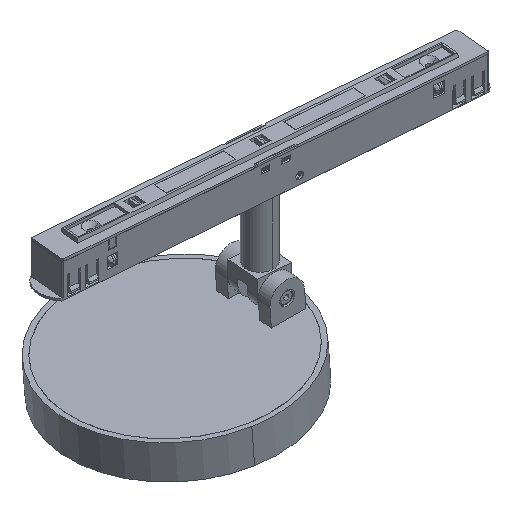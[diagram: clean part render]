
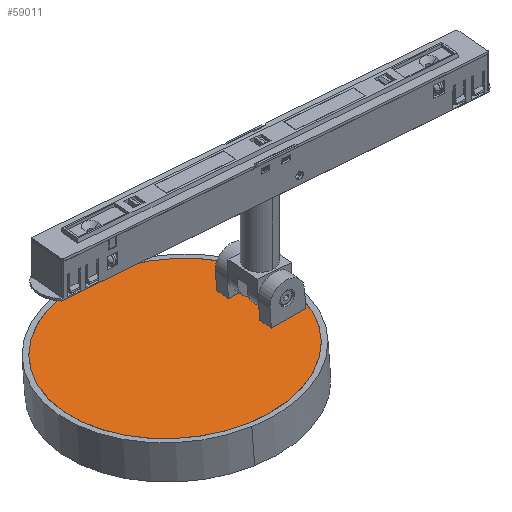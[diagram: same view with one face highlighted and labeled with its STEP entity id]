
A CAD part, isometric view. The second image highlights one B-rep face of the part: STEP entity #59011.
In plain terms, the highlighted planar face has unit normal (-0.071, 0.006, 0.997) as drawn and (0, -1, 0) by its records, which use the part's own axes.
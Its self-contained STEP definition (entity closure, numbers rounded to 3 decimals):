
#132 = AXIS2_PLACEMENT_3D ( 'NONE', #57697, #7623, #29894 ) ;
#854 = DIRECTION ( 'NONE',  ( 0., 0., 1. ) ) ;
#1792 = DIRECTION ( 'NONE',  ( 0., -1., 0. ) ) ;
#2063 = EDGE_LOOP ( 'NONE', ( #70917, #19471 ) ) ;
#2390 = CARTESIAN_POINT ( 'NONE',  ( -37.5, 0., 0. ) ) ;
#3287 = AXIS2_PLACEMENT_3D ( 'NONE', #70518, #20429, #42751 ) ;
#3795 = AXIS2_PLACEMENT_3D ( 'NONE', #28588, #50893, #854 ) ;
#4986 = DIRECTION ( 'NONE',  ( 0., -1., 0. ) ) ;
#5530 = CIRCLE ( 'NONE', #46393, 1.75 ) ;
#7623 = DIRECTION ( 'NONE',  ( 0., -1., 0. ) ) ;
#8004 = ORIENTED_EDGE ( 'NONE', *, *, #60356, .F. ) ;
#11988 = CARTESIAN_POINT ( 'NONE',  ( 0., 0., 48.5 ) ) ;
#13442 = ORIENTED_EDGE ( 'NONE', *, *, #34754, .F. ) ;
#14747 = EDGE_CURVE ( 'NONE', #66715, #46063, #21052, .T. ) ;
#14954 = CARTESIAN_POINT ( 'NONE',  ( 0., 0., 0. ) ) ;
#15026 = AXIS2_PLACEMENT_3D ( 'NONE', #14954, #37239, #59548 ) ;
#17607 = VERTEX_POINT ( 'NONE', #27611 ) ;
#18734 = EDGE_LOOP ( 'NONE', ( #13442, #19977 ) ) ;
#19471 = ORIENTED_EDGE ( 'NONE', *, *, #57551, .F. ) ;
#19977 = ORIENTED_EDGE ( 'NONE', *, *, #56916, .F. ) ;
#20118 = AXIS2_PLACEMENT_3D ( 'NONE', #2390, #24659, #46983 ) ;
#20420 = FACE_BOUND ( 'NONE', #40743, .T. ) ;
#20429 = DIRECTION ( 'NONE',  ( 0., 1., 0. ) ) ;
#20524 = DIRECTION ( 'NONE',  ( 0., 0., -1. ) ) ;
#21052 = CIRCLE ( 'NONE', #61901, 1.75 ) ;
#21925 = DIRECTION ( 'NONE',  ( 0., 0., 1. ) ) ;
#22803 = EDGE_CURVE ( 'NONE', #46063, #66715, #35266, .T. ) ;
#23496 = CARTESIAN_POINT ( 'NONE',  ( -37.5, 0., -1.75 ) ) ;
#24040 = DIRECTION ( 'NONE',  ( 0., 0., 1. ) ) ;
#24193 = CARTESIAN_POINT ( 'NONE',  ( -37.5, 0., 12.75 ) ) ;
#24659 = DIRECTION ( 'NONE',  ( 0., -1., 0. ) ) ;
#25230 = AXIS2_PLACEMENT_3D ( 'NONE', #48330, #70607, #20524 ) ;
#25440 = CIRCLE ( 'NONE', #3287, 48.5 ) ;
#27246 = DIRECTION ( 'NONE',  ( 0., 0., 1. ) ) ;
#27611 = CARTESIAN_POINT ( 'NONE',  ( -37.5, 0., 1.75 ) ) ;
#27737 = CIRCLE ( 'NONE', #68579, 1.75 ) ;
#28588 = CARTESIAN_POINT ( 'NONE',  ( -37.5, 0., -11. ) ) ;
#29894 = DIRECTION ( 'NONE',  ( 0., 0., 1. ) ) ;
#30762 = VERTEX_POINT ( 'NONE', #67654 ) ;
#31615 = CIRCLE ( 'NONE', #132, 1.75 ) ;
#33556 = VERTEX_POINT ( 'NONE', #69081 ) ;
#34754 = EDGE_CURVE ( 'NONE', #71947, #33556, #31615, .T. ) ;
#35266 = CIRCLE ( 'NONE', #3795, 1.75 ) ;
#37239 = DIRECTION ( 'NONE',  ( 0., 1., 0. ) ) ;
#40743 = EDGE_LOOP ( 'NONE', ( #67425, #60899 ) ) ;
#42742 = FACE_BOUND ( 'NONE', #18734, .T. ) ;
#42751 = DIRECTION ( 'NONE',  ( 0., 0., -1. ) ) ;
#42793 = EDGE_CURVE ( 'NONE', #17607, #64464, #51624, .T. ) ;
#44627 = CARTESIAN_POINT ( 'NONE',  ( -37.5, 0., -12.75 ) ) ;
#46063 = VERTEX_POINT ( 'NONE', #60273 ) ;
#46393 = AXIS2_PLACEMENT_3D ( 'NONE', #49740, #72017, #21925 ) ;
#46983 = DIRECTION ( 'NONE',  ( 0., 0., 1. ) ) ;
#48228 = FACE_OUTER_BOUND ( 'NONE', #52607, .T. ) ;
#48330 = CARTESIAN_POINT ( 'NONE',  ( 0., 0., 0. ) ) ;
#49740 = CARTESIAN_POINT ( 'NONE',  ( -37.5, 0., 11. ) ) ;
#50893 = DIRECTION ( 'NONE',  ( 0., -1., 0. ) ) ;
#50932 = ORIENTED_EDGE ( 'NONE', *, *, #72138, .F. ) ;
#51624 = CIRCLE ( 'NONE', #20118, 1.75 ) ;
#51836 = CARTESIAN_POINT ( 'NONE',  ( -37.5, 0., -11. ) ) ;
#52607 = EDGE_LOOP ( 'NONE', ( #50932, #8004 ) ) ;
#55054 = CARTESIAN_POINT ( 'NONE',  ( -37.5, 0., 0. ) ) ;
#56742 = CIRCLE ( 'NONE', #25230, 48.5 ) ;
#56916 = EDGE_CURVE ( 'NONE', #33556, #71947, #5530, .T. ) ;
#57551 = EDGE_CURVE ( 'NONE', #64464, #17607, #27737, .T. ) ;
#57697 = CARTESIAN_POINT ( 'NONE',  ( -37.5, 0., 11. ) ) ;
#59011 = ADVANCED_FACE ( 'NONE', ( #48228, #70507, #20420, #42742 ), #65024, .F. ) ;
#59548 = DIRECTION ( 'NONE',  ( 0., 0., 1. ) ) ;
#60273 = CARTESIAN_POINT ( 'NONE',  ( -37.5, 0., -9.25 ) ) ;
#60356 = EDGE_CURVE ( 'NONE', #67184, #30762, #25440, .T. ) ;
#60899 = ORIENTED_EDGE ( 'NONE', *, *, #14747, .F. ) ;
#61901 = AXIS2_PLACEMENT_3D ( 'NONE', #51836, #1792, #24040 ) ;
#64464 = VERTEX_POINT ( 'NONE', #23496 ) ;
#65024 = PLANE ( 'NONE',  #15026 ) ;
#66715 = VERTEX_POINT ( 'NONE', #44627 ) ;
#67184 = VERTEX_POINT ( 'NONE', #11988 ) ;
#67425 = ORIENTED_EDGE ( 'NONE', *, *, #22803, .F. ) ;
#67654 = CARTESIAN_POINT ( 'NONE',  ( 0., 0., -48.5 ) ) ;
#68579 = AXIS2_PLACEMENT_3D ( 'NONE', #55054, #4986, #27246 ) ;
#69081 = CARTESIAN_POINT ( 'NONE',  ( -37.5, 0., 9.25 ) ) ;
#70507 = FACE_BOUND ( 'NONE', #2063, .T. ) ;
#70518 = CARTESIAN_POINT ( 'NONE',  ( 0., 0., 0. ) ) ;
#70607 = DIRECTION ( 'NONE',  ( 0., 1., 0. ) ) ;
#70917 = ORIENTED_EDGE ( 'NONE', *, *, #42793, .F. ) ;
#71947 = VERTEX_POINT ( 'NONE', #24193 ) ;
#72017 = DIRECTION ( 'NONE',  ( 0., -1., 0. ) ) ;
#72138 = EDGE_CURVE ( 'NONE', #30762, #67184, #56742, .T. ) ;
